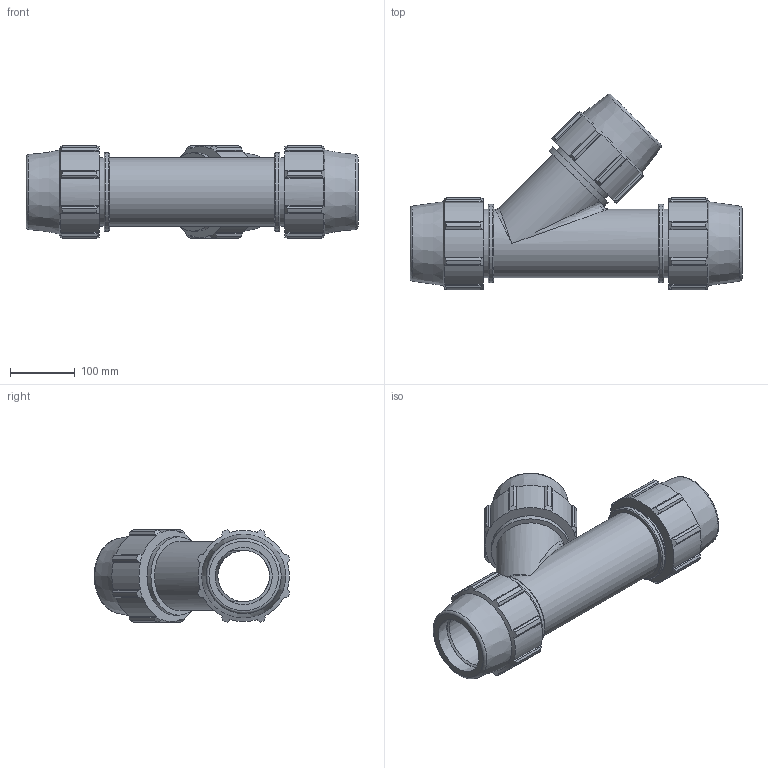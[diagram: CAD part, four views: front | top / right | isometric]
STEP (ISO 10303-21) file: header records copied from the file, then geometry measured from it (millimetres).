
FILE_DESCRIPTION(/* description */ ('PLASSON 45° TEE 3'''' - 3'''' - 3'''''),/* implementation_level */ '2;1');
FILE_NAME(/* name */ 'C:\Dropbox\KIMPROJECTS-Inventor 2019\99-16-3568-Processing Inch\ASTM Compression 2021\0764M0\0764M0030.ipt.stp',/* time_stamp */ '2021-08-26T12:34:57+03:00',/* author */ ('Кирилл'),/* organization */ (''),/* preprocessor_version */ 'ST-DEVELOPER v17.2',/* originating_system */ 'Autodesk Inventor 2019',/* authorisation */ '');
FILE_SCHEMA (('AUTOMOTIVE_DESIGN { 1 0 10303 214 3 1 1 }'));
Length unit declared in the file: inch
Products named in the file (1): 0764M0030
Bounding box: 514.1 x 302.95 x 142.92 mm (x, y, z)
Volume: 3975286.4 mm3; surface area: 521343.5 mm2
Topology: 1 solids, 1 shells, 221 faces, 651 edges, 441 vertices
Faces by surface type: plane 115, cylinder 62, cone 35, torus 7, bspline 2
Full cylindrical faces by diameter (mm): 79.83 x2, 88.7 x3, 106.324 x4, 121.514 x3
Entity records: 7855 total; most frequent: CARTESIAN_POINT 1730, ORIENTED_EDGE 1294, DIRECTION 1223, EDGE_CURVE 647, AXIS2_PLACEMENT_3D 456, VERTEX_POINT 441, LINE 311, VECTOR 311
